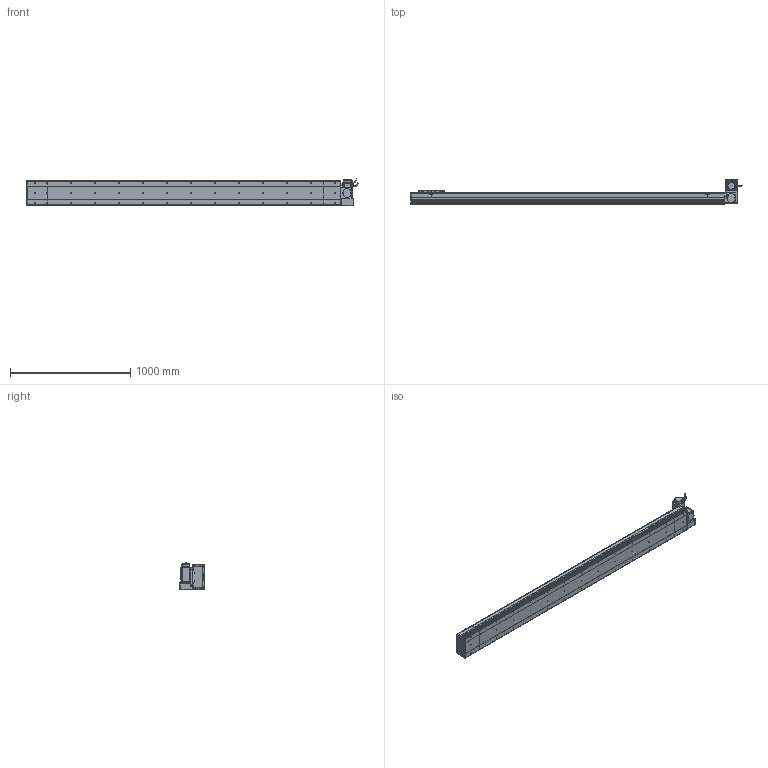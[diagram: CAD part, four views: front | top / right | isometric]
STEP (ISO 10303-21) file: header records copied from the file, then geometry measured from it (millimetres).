
FILE_DESCRIPTION (( 'STEP AP214' ), '1' );
FILE_NAME ('D20 CBH RT S2300.STEP', '2010-06-30T10:07:19', ( 'Conseil Régional Haute-Normandie' ), ( 'Conseil Régional Haute-Normandie' ), 'SwSTEP 2.0', 'SolidWorks 2010', '' );
FILE_SCHEMA (( 'AUTOMOTIVE_DESIGN' ));
Length unit declared in the file: millimetre
Products named in the file (31): Couvercle S2300_Default; Corp Tail D20 RT_Default; Plaque de Bout Head D20 RT_Default; Corp S2300_Default; Corp D20 S2300_Default; Support moteur RT_Default; Plaque De Serrage D20 RT_Default; Glissiere_Default; Chariot D20_Default; Support Chariot D20_Default; avant 90BLDC125A-640; Moteur motionking 90BLDC125A-640; ecrou_Default; codeur 90BLDC125-640; corps 90BLDC125A-640; Cache Support Moteur RT_Default; Rondelle Cache D20 RT_Default; vis M5 L47_Default; vis M5 L30_Default; Conecteur_Default; Conecteur2_Default; Plaque de Bout Tail D20_Default; Couvercle_Default; Corp Tail D20+100_Default; Plaque De Serrage D20_Default; vis M5 L15_Default; Tail D20+100_Default; Couvercle RT_Default; Head RT_Default; D20 CBH RT S2300
Assembly tree (68 placements, depth 4):
  D20 CBH RT S2300
    Chariot D20_Default
      Chariot D20_Default
      vis M5 L15_Default  x8
      Glissiere_Default
      Support Chariot D20_Default
    Corp D20 S2300_Default
      Corp S2300_Default
      Couvercle S2300_Default
    Tail D20+100_Default
      vis M5 L15_Default  x6
      Plaque de Bout Tail D20_Default
      Plaque De Serrage D20_Default
      Corp Tail D20+100_Default
      Couvercle_Default
    Head RT_Default
      vis M5 L15_Default  x14
      ecrou_Default  x4
      vis M5 L30_Default  x4
      vis M5 L47_Default  x4
      Moteur motionking 90BLDC125A-640
        Conecteur_Default
        corps 90BLDC125A-640
        Conecteur2_Default
        codeur 90BLDC125-640
        avant 90BLDC125A-640
      Rondelle Cache D20 RT_Default  x3
      Corp Tail D20 RT_Default
      Cache Support Moteur RT_Default
      Support moteur RT_Default
      Plaque De Serrage D20 RT_Default
      Couvercle RT_Default
      Plaque de Bout Head D20 RT_Default
Bounding box: 2764.45 x 206.5 x 229.7 mm (x, y, z)
Volume: 18819103.4 mm3; surface area: 3656746.9 mm2
Topology: 105 solids, 105 shells, 3838 faces, 9552 edges, 6202 vertices
Faces by surface type: plane 2137, bspline 806, cylinder 724, torus 95, cone 72, sphere 4
Entity records: 160070 total; most frequent: CARTESIAN_POINT 82424, ORIENTED_EDGE 15372, DIRECTION 11734, EDGE_CURVE 7686, VERTEX_POINT 5086, VECTOR 4966, LINE 4966, AXIS2_PLACEMENT_3D 3384
